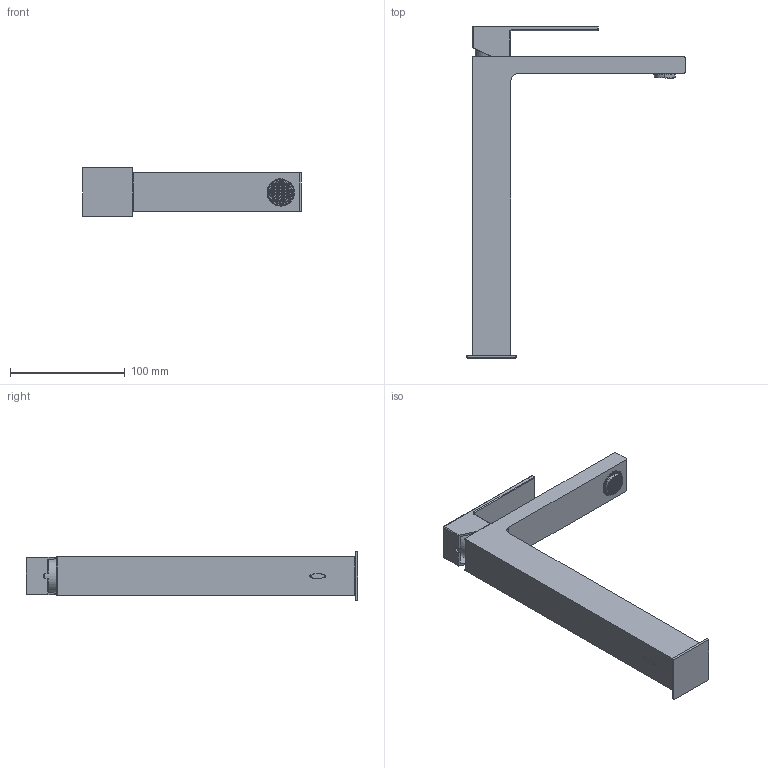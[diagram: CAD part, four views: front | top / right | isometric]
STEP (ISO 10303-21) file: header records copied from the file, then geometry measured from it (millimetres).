
FILE_DESCRIPTION (( 'STEP AP214' ), '1' );
FILE_NAME ('58301810 x architetti.STEP', '2024-11-27T16:28:00', ( '' ), ( '' ), 'SwSTEP 2.0', 'SolidWorks 2020', '' );
FILE_SCHEMA (( 'AUTOMOTIVE_DESIGN' ));
Length unit declared in the file: millimetre
Products named in the file (3): 58301810 3d x architetti; F0006399; 58301810 x architetti
Assembly tree (2 placements, depth 2):
  58301810 x architetti
    58301810 3d x architetti
    F0006399
Bounding box: 190.35 x 289.8 x 43 mm (x, y, z)
Volume: 3115.9 mm3; surface area: 82377.6 mm2
Topology: 1 solids, 20 shells, 4512 faces, 11624 edges, 7519 vertices
Faces by surface type: plane 3313, cylinder 683, cone 434, bspline 80, torus 2
Entity records: 168799 total; most frequent: CARTESIAN_POINT 53497, ORIENTED_EDGE 23222, DIRECTION 14865, EDGE_CURVE 11623, VERTEX_POINT 7521, B_SPLINE_CURVE_WITH_KNOTS 5143, VECTOR 5099, LINE 5099
